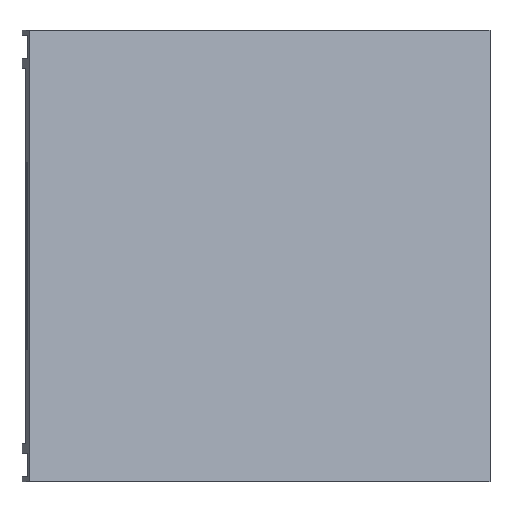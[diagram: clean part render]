
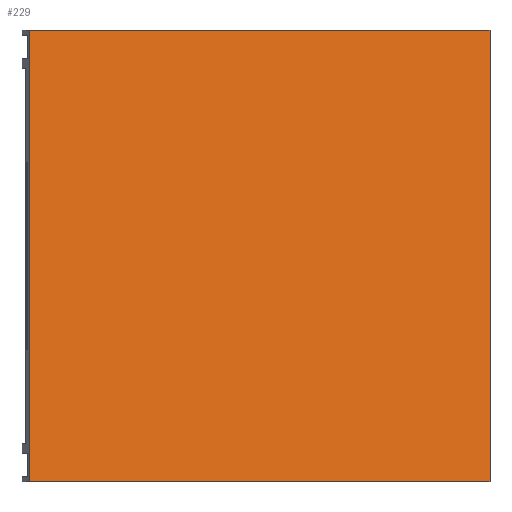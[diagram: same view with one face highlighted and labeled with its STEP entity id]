
A CAD part, front view. The second image highlights one B-rep face of the part: STEP entity #229.
In plain terms, the highlighted planar face has unit normal (0.479, -0.878, 0).
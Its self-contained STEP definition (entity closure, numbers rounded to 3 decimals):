
#229=ADVANCED_FACE('',(#436),#438,.T.);
#436=FACE_BOUND('',#437,.T.);
#437=EDGE_LOOP('',(#592,#593,#594,#595));
#438=PLANE('',#439);
#439=AXIS2_PLACEMENT_3D('',#440,#441,#442);
#440=CARTESIAN_POINT('',(-234.877,-149.482,0.));
#441=DIRECTION('',(0.479,-0.878,0.));
#442=DIRECTION('',(0.878,0.479,0.));
#592=ORIENTED_EDGE('',*,*,#702,.T.);
#593=ORIENTED_EDGE('',*,*,#703,.T.);
#594=ORIENTED_EDGE('',*,*,#658,.T.);
#595=ORIENTED_EDGE('',*,*,#701,.F.);
#658=EDGE_CURVE('',#750,#748,#751,.F.);
#701=EDGE_CURVE('',#815,#748,#817,.T.);
#702=EDGE_CURVE('',#815,#818,#819,.F.);
#703=EDGE_CURVE('',#818,#750,#820,.T.);
#748=VERTEX_POINT('',#903);
#750=VERTEX_POINT('',#907);
#751=LINE('',#908,#909);
#815=VERTEX_POINT('',#1056);
#817=LINE('',#1060,#1061);
#818=VERTEX_POINT('',#1063);
#819=LINE('',#1064,#1065);
#820=LINE('',#1067,#1068);
#903=CARTESIAN_POINT('',(-118.015,-85.695,96.));
#907=CARTESIAN_POINT('',(-118.015,-85.695,0.));
#908=CARTESIAN_POINT('',(-118.015,-85.695,96.));
#909=VECTOR('',#910,1.);
#910=DIRECTION('',(0.,0.,-1.));
#1056=CARTESIAN_POINT('',(-216.021,-139.19,96.));
#1060=CARTESIAN_POINT('',(-216.021,-139.19,96.));
#1061=VECTOR('',#1062,1.);
#1062=DIRECTION('',(0.878,0.479,0.));
#1063=CARTESIAN_POINT('',(-216.021,-139.19,0.));
#1064=CARTESIAN_POINT('',(-216.021,-139.19,0.));
#1065=VECTOR('',#1066,1.);
#1066=DIRECTION('',(0.,0.,1.));
#1067=CARTESIAN_POINT('',(-216.021,-139.19,0.));
#1068=VECTOR('',#1069,1.);
#1069=DIRECTION('',(0.878,0.479,0.));
